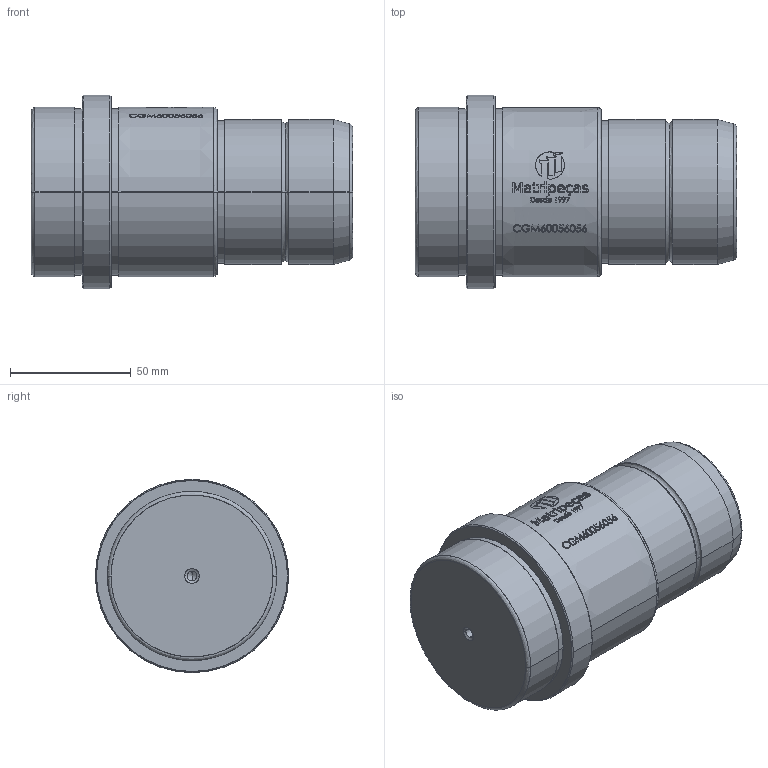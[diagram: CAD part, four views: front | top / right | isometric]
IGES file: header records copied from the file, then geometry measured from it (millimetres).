
Start section: SolidWorks IGES file using analytic representation for surfaces
Global section: file name: E:\1.TRIVECTOR\Clientes\MATRIPEÇAS\PEÇAS_CATALOGO_SITE\6.CGM - COLUNA PRINCIPAL TIPO GUIA (CATÁLOGO)\CGM60056056.IGS; native system: SolidWorks 2024; preprocessor: SolidWorks 2024; author: Gabriel Techio; date: 260914.151535; units: millimetre
Bounding box: 133 x 80 x 80 mm (x, y, z)
Surface area: 38126.9 mm2 (no closed solid volume)
Topology: 0 solids, 0 shells, 493 faces, 6567 edges, 6563 vertices
Faces by surface type: bspline 410, revolution 83
